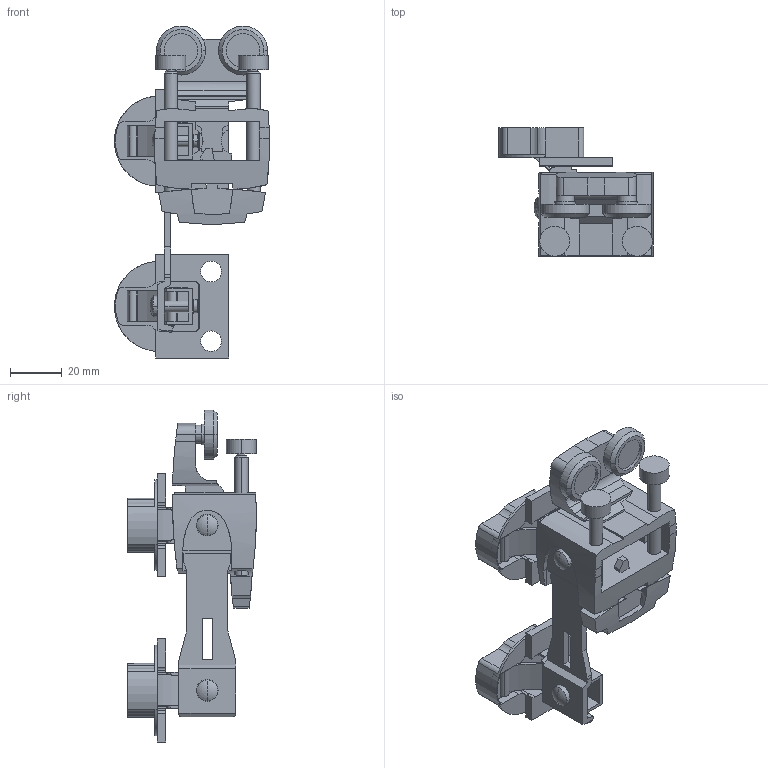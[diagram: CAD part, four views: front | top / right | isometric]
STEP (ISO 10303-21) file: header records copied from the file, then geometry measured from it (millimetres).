
FILE_DESCRIPTION( ( '' ), '1' );
FILE_NAME( 'C:/Users/dhek/Desktop/New folder/SAT., STP., IGS/Wingline L/9237492.stp', '2017-09-14T10:40:06', ( '' ), ( '' ), ' ', ' ', ' ' );
FILE_SCHEMA( ( 'CONFIG_CONTROL_DESIGN' ) );
Length unit declared in the file: millimetre
Products named in the file (1): 1
Bounding box: 60.03 x 49.8 x 128.6 mm (x, y, z)
Volume: 60948.7 mm3; surface area: 36401.1 mm2
Topology: 1 solids, 1 shells, 709 faces, 2156 edges, 1424 vertices
Faces by surface type: plane 489, cylinder 200, cone 12, torus 8
Entity records: 25012 total; most frequent: CARTESIAN_POINT 5199, ORIENTED_EDGE 4304, DIRECTION 3969, EDGE_CURVE 2152, LINE 1603, VECTOR 1603, VERTEX_POINT 1424, AXIS2_PLACEMENT_3D 1183
